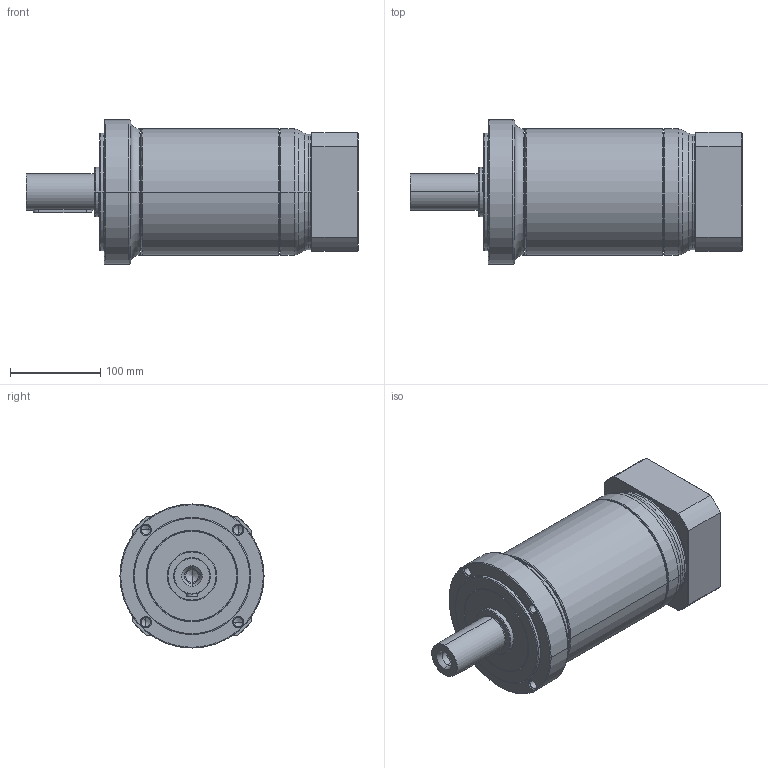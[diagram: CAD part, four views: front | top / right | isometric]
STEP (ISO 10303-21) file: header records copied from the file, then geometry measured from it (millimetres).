
FILE_DESCRIPTION((''),'2;1');
FILE_NAME('PG2-160_3ST_35-P0411800101_ASM','2016-04-19T',('d01943'),(''),'PRO/ENGINEER BY PARAMETRIC TECHNOLOGY CORPORATION, 2008410','PRO/ENGINEER BY PARAMETRIC TECHNOLOGY CORPORATION, 2008410','');
FILE_SCHEMA(('CONFIG_CONTROL_DESIGN'));
Length unit declared in the file: millimetre
Products named in the file (9): P1325510001; P0273500001; P1324500401; P0350501103; P0411800101; P0503800010; P0941504001; P1702600001; PG2-160_3ST_35-P0411800101_ASM
Assembly tree (8 placements, depth 2):
  PG2-160_3ST_35-P0411800101_ASM
    P1325510001
    P0273500001
    P1324500401
    P0350501103
    P0411800101
    P0503800010
    P0941504001
    P1702600001
Bounding box: 368.5 x 160 x 160 mm (x, y, z)
Volume: 2865662.4 mm3; surface area: 426730.2 mm2
Topology: 8 solids, 9 shells, 478 faces, 1042 edges, 600 vertices
Faces by surface type: cylinder 143, cone 140, torus 100, plane 79, bspline 16
Entity records: 17662 total; most frequent: CARTESIAN_POINT 6919, DIRECTION 2462, ORIENTED_EDGE 2028, AXIS2_PLACEMENT_3D 1058, EDGE_CURVE 1014, VERTEX_POINT 600, CIRCLE 579, EDGE_LOOP 542
